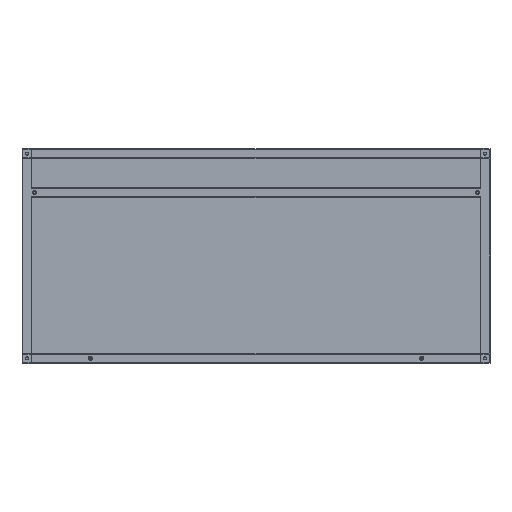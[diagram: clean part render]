
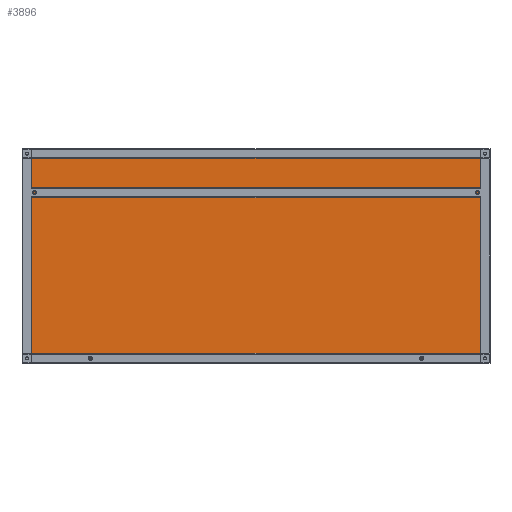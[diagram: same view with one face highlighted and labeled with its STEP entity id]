
A CAD part, front view. The second image highlights one B-rep face of the part: STEP entity #3896.
In plain terms, the highlighted planar face has unit normal (0, -1, 0) as drawn and (0, 0, 1) by its records, which use the part's own axes.
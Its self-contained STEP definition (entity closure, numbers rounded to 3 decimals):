
#39 = ORIENTED_EDGE ( 'NONE', *, *, #483, .T. ) ;
#97 = LINE ( 'NONE', #4496, #6137 ) ;
#114 = PLANE ( 'NONE',  #2373 ) ;
#174 = VERTEX_POINT ( 'NONE', #2646 ) ;
#475 = ORIENTED_EDGE ( 'NONE', *, *, #4741, .T. ) ;
#483 = EDGE_CURVE ( 'NONE', #2755, #3755, #3910, .T. ) ;
#736 = VECTOR ( 'NONE', #5007, 1000. ) ;
#759 = LINE ( 'NONE', #3251, #4190 ) ;
#1638 = ORIENTED_EDGE ( 'NONE', *, *, #3318, .T. ) ;
#2014 = EDGE_LOOP ( 'NONE', ( #1638, #475, #3517, #39 ) ) ;
#2373 = AXIS2_PLACEMENT_3D ( 'NONE', #3953, #5826, #5852 ) ;
#2646 = CARTESIAN_POINT ( 'NONE',  ( 25., -250., 20. ) ) ;
#2755 = VERTEX_POINT ( 'NONE', #4111 ) ;
#3051 = DIRECTION ( 'NONE',  ( 0., 1., 0. ) ) ;
#3083 = LINE ( 'NONE', #4434, #4201 ) ;
#3251 = CARTESIAN_POINT ( 'NONE',  ( 25., 275., 20. ) ) ;
#3318 = EDGE_CURVE ( 'NONE', #3755, #174, #759, .T. ) ;
#3517 = ORIENTED_EDGE ( 'NONE', *, *, #5966, .T. ) ;
#3552 = CARTESIAN_POINT ( 'NONE',  ( 25., 275., 20. ) ) ;
#3755 = VERTEX_POINT ( 'NONE', #5704 ) ;
#3865 = FACE_OUTER_BOUND ( 'NONE', #2014, .T. ) ;
#3896 = ADVANCED_FACE ( 'NONE', ( #3865 ), #114, .T. ) ;
#3910 = LINE ( 'NONE', #3552, #736 ) ;
#3935 = DIRECTION ( 'NONE',  ( 1., 0., 0. ) ) ;
#3953 = CARTESIAN_POINT ( 'NONE',  ( 0., 0., 20. ) ) ;
#4061 = CARTESIAN_POINT ( 'NONE',  ( 1175., -250., 20. ) ) ;
#4111 = CARTESIAN_POINT ( 'NONE',  ( 1175., 275., 20. ) ) ;
#4190 = VECTOR ( 'NONE', #5178, 1000. ) ;
#4201 = VECTOR ( 'NONE', #3935, 1000. ) ;
#4434 = CARTESIAN_POINT ( 'NONE',  ( 25., -250., 20. ) ) ;
#4496 = CARTESIAN_POINT ( 'NONE',  ( 1175., 275., 20. ) ) ;
#4741 = EDGE_CURVE ( 'NONE', #174, #5656, #3083, .T. ) ;
#5007 = DIRECTION ( 'NONE',  ( -1., 0., 0. ) ) ;
#5178 = DIRECTION ( 'NONE',  ( 0., -1., 0. ) ) ;
#5656 = VERTEX_POINT ( 'NONE', #4061 ) ;
#5704 = CARTESIAN_POINT ( 'NONE',  ( 25., 275., 20. ) ) ;
#5826 = DIRECTION ( 'NONE',  ( 0., 0., 1. ) ) ;
#5852 = DIRECTION ( 'NONE',  ( 1., 0., 0. ) ) ;
#5966 = EDGE_CURVE ( 'NONE', #5656, #2755, #97, .T. ) ;
#6137 = VECTOR ( 'NONE', #3051, 1000. ) ;
